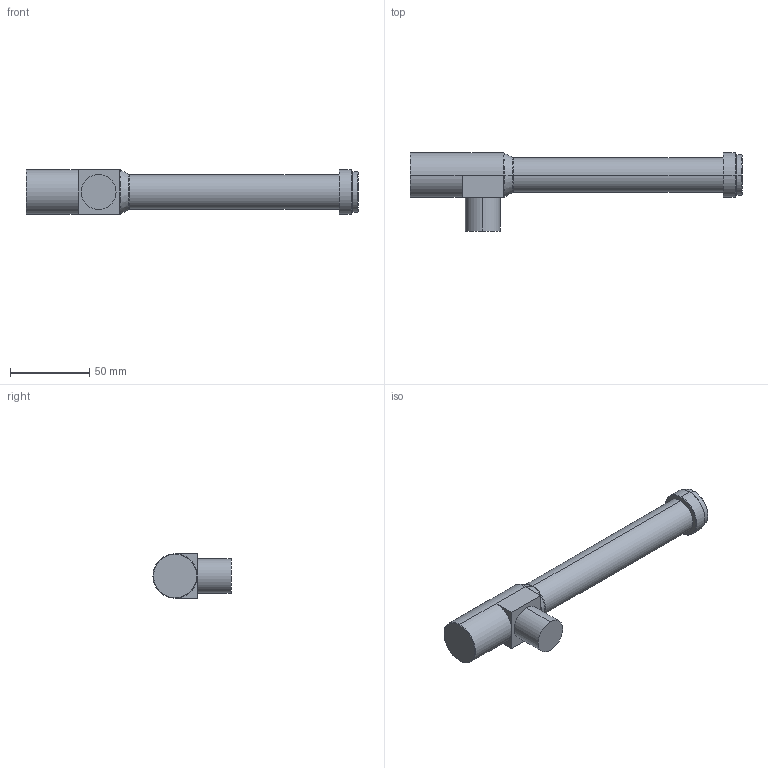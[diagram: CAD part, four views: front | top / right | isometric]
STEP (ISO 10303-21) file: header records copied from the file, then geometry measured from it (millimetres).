
FILE_DESCRIPTION (( 'STEP AP203' ), '1' );
FILE_NAME ('WWH100-63CTV3.STEP', '2021-05-11T02:26:26', ( 'Windows User' ), ( 'P R C' ), 'SwSTEP 2.0', 'SolidWorks 2017', '' );
FILE_SCHEMA (( 'CONFIG_CONTROL_DESIGN' ));
Length unit declared in the file: millimetre
Products named in the file (1): WWH100-63CTV3
Bounding box: 209.7 x 49.4 x 28 mm (x, y, z)
Volume: 107031.9 mm3; surface area: 19357.4 mm2
Topology: 1 solids, 1 shells, 40 faces, 80 edges, 46 vertices
Faces by surface type: cylinder 13, plane 13, cone 10, torus 4
Entity records: 1109 total; most frequent: DIRECTION 206, CARTESIAN_POINT 167, ORIENTED_EDGE 160, AXIS2_PLACEMENT_3D 85, EDGE_CURVE 80, VERTEX_POINT 46, EDGE_LOOP 44, CIRCLE 44
